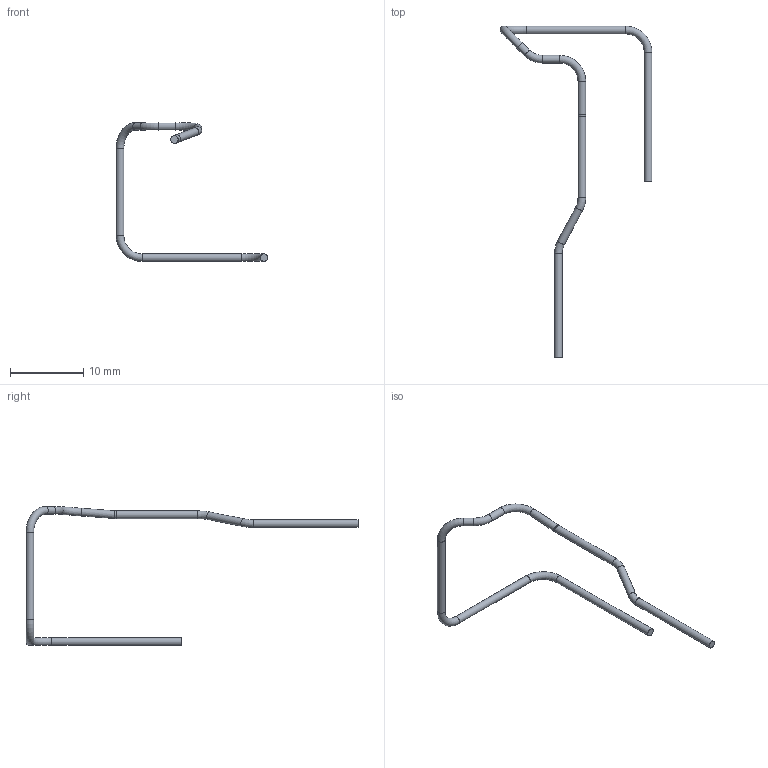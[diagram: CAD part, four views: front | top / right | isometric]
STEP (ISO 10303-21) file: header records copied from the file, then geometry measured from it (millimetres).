
FILE_DESCRIPTION(('Open CASCADE Model'),'2;1');
FILE_NAME('R36_J10_CK_PIGTAIL_2_OD1p05_R3','2026-09-15T14:09:12',( 'Author'),('Open CASCADE'),'Open CASCADE STEP processor 7.9', 'build123d','Unknown');
FILE_SCHEMA(('AUTOMOTIVE_DESIGN { 1 0 10303 214 1 1 1 1 }'));
Length unit declared in the file: millimetre
Products named in the file (1): R36_J10_CK_PIGTAIL_2_OD1p05_R3
Bounding box: 20.65 x 45.17 x 18.91 mm (x, y, z)
Volume: 92.3 mm3; surface area: 353.4 mm2
Topology: 1 solids, 1 shells, 19 faces, 35 edges, 18 vertices
Faces by surface type: cylinder 9, torus 8, plane 2
Full cylindrical faces by diameter (mm): 1.05 x9
Entity records: 899 total; most frequent: CARTESIAN_POINT 176, DIRECTION 138, ORIENTED_EDGE 70, PCURVE 70, DEFINITIONAL_REPRESENTATION 70, AXIS2_PLACEMENT_3D 46, LINE 44, VECTOR 44
